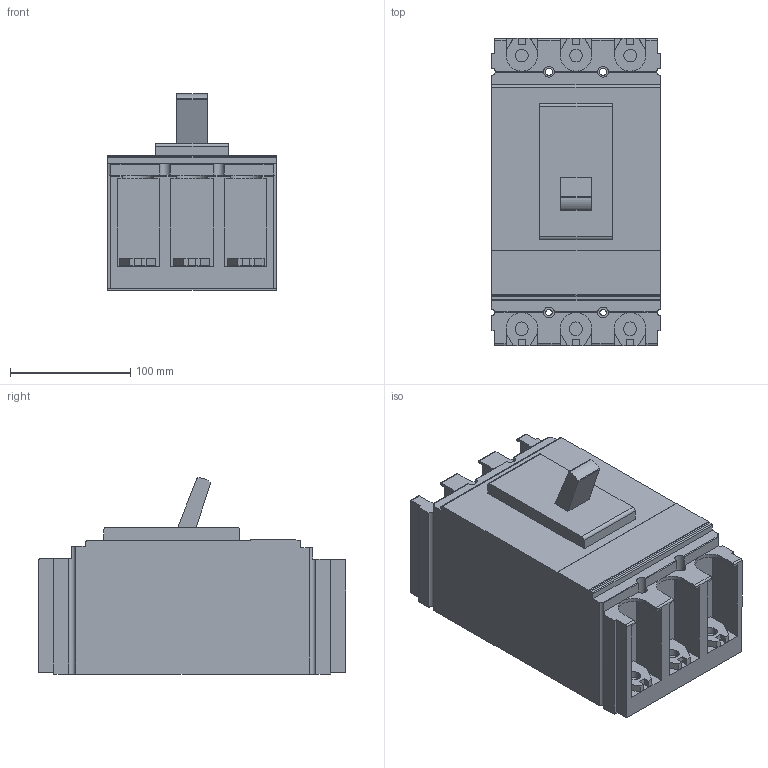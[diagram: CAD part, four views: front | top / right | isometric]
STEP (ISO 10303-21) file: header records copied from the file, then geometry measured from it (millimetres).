
FILE_DESCRIPTION (( 'STEP AP214' ), '1' );
FILE_NAME ('Âûêëþ÷àòåëü OptiMat D630.STEP', '2023-04-03T03:11:13', ( '' ), ( '' ), 'SwSTEP 2.0', 'SolidWorks 2018', '' );
FILE_SCHEMA (( 'AUTOMOTIVE_DESIGN' ));
Length unit declared in the file: millimetre
Products named in the file (1): Âûêëþ÷àòåëü OptiMat D630
Bounding box: 140 x 255.5 x 162.93 mm (x, y, z)
Volume: 3439451.2 mm3; surface area: 211103.4 mm2
Topology: 1 solids, 1 shells, 242 faces, 684 edges, 452 vertices
Faces by surface type: plane 177, cylinder 65
Entity records: 7882 total; most frequent: CARTESIAN_POINT 1480, ORIENTED_EDGE 1368, DIRECTION 1266, EDGE_CURVE 684, VECTOR 542, LINE 542, VERTEX_POINT 452, AXIS2_PLACEMENT_3D 362
